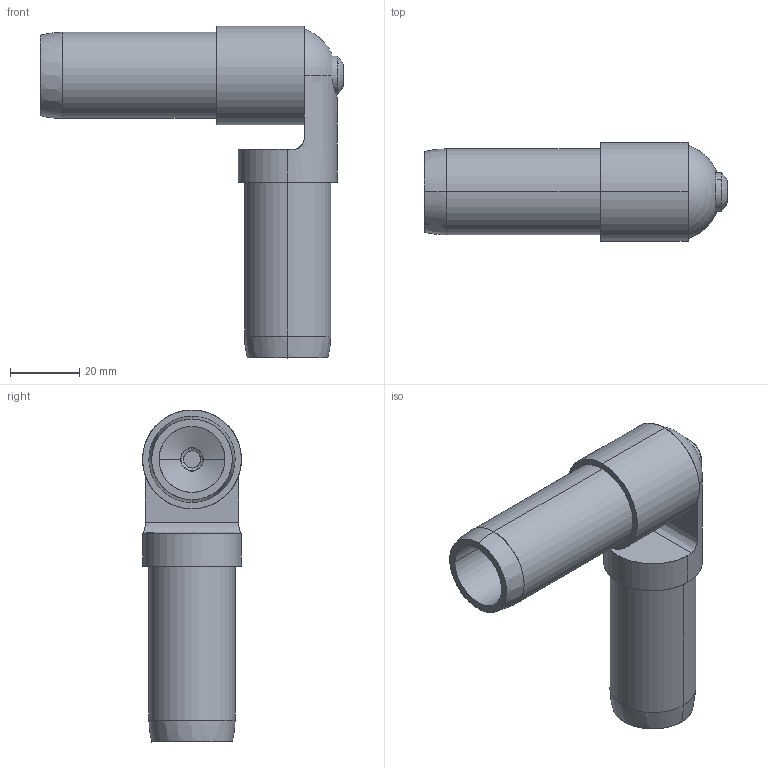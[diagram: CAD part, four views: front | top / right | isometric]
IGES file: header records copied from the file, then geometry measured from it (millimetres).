
Start section: SolidWorks IGES file using analytic representation for surfaces
Global section: file name: \\SERVER3\Design\_New Design Drive Folder List\_Design Vault\AAI\Modular Round Tube Connectors\Solidworks Models\STP Files\12202013\1.000 Inch Modular Connectors\Assemblies\1 Inch Adjustable 90 Degree 2-Tube Joint Kit.IGS; native system: SolidWorks 2013; preprocessor: SolidWorks 2013; author: tbraun; date: 140110.113650; units: inch
Bounding box: 87.6 x 28.57 x 95.97 mm (x, y, z)
Surface area: 23742.9 mm2 (no closed solid volume)
Topology: 0 solids, 0 shells, 200 faces, 2757 edges, 2755 vertices
Faces by surface type: revolution 162, bspline 38
